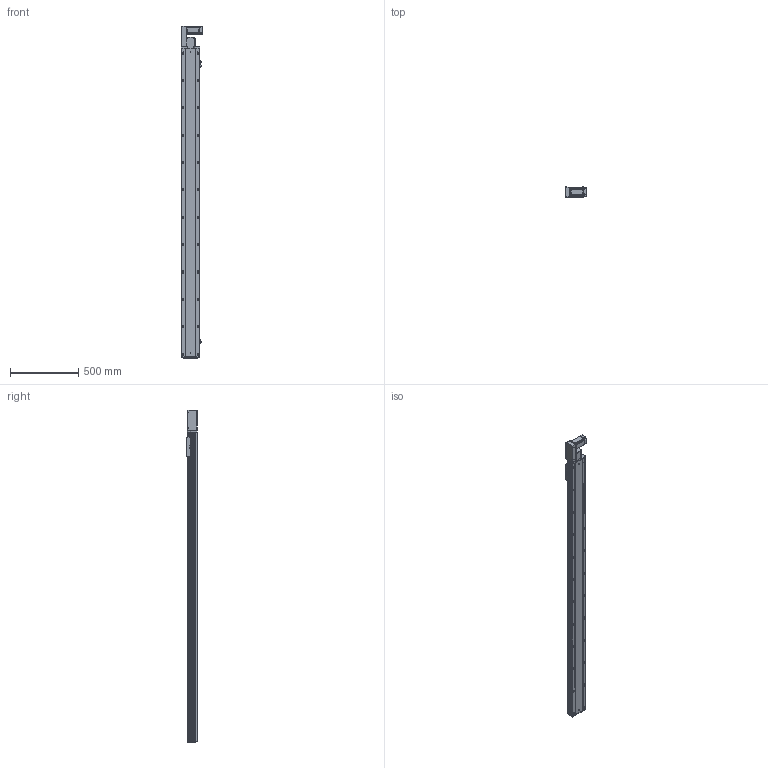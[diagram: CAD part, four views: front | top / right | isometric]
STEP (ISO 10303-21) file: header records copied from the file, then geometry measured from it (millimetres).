
FILE_DESCRIPTION (( 'STEP AP203' ), '1' );
FILE_NAME ('RY140-T-300-LK.SLDASM_2000.step', '2021-03-01T06:37:02', ( '盈信电脑' ), ( '东莞市道滘镇水果街19号' ), 'SwSTEP 2.0', 'SolidWorks 2012', '' );
FILE_SCHEMA (( 'CONFIG_CONTROL_DESIGN' ));
Products named in the file (18): RY140-T翋肮謫裔啣; RY140-T-300-LK.SLDASM_2000; 滅袉蝶18-10; RY140-T萇儂欶; RY120-T蹟翐M4; 侂狟400W侜督萇儂; 15; RY140-T萇儂假蚾啣; RY120-T主同步轮轴承压盖; RY120-T肮祭湍揤踡輸2; RY120外置感应片(140共用）; RY140-T翋肮祭謫盓傅釱; RY120-T肮祭湍揤踡輸1; 覜茼ん672; RY140-T-300-DL倰第菁釱_2000; RY140肮祭謫臏賑輸; RY140-T-300-DL倰第奻裔啣_2000; RY140綴裔啣
Assembly tree (23 placements, depth 3):
  RY140-T-300-LK.SLDASM_2000
    RY140-T-300-DL倰第菁釱_2000
    RY140肮祭謫臏賑輸
    RY140-T-300-DL倰第奻裔啣_2000
    RY140綴裔啣
    覜茼ん672  x3
    RY120外置感应片(140共用）
    RY120-T肮祭湍揤踡輸2
    RY120-T肮祭湍揤踡輸1
    RY140-T翋肮祭謫盓傅釱
    RY140-T萇儂假蚾啣
    侂狟400W侜督萇儂
      15
    RY120-T主同步轮轴承压盖
    RY120-T蹟翐M4  x4
    RY140-T萇儂欶
    滅袉蝶18-10  x2
    RY140-T翋肮謫裔啣
Bounding box: 157 x 78 x 2426.5 mm (x, y, z)
Volume: 6388009.7 mm3; surface area: 2500856.6 mm2
Topology: 22 solids, 22 shells, 2891 faces, 7949 edges, 5056 vertices
Faces by surface type: plane 1385, cylinder 1116, cone 290, bspline 100
Entity records: 91533 total; most frequent: CARTESIAN_POINT 22231, ORIENTED_EDGE 14242, DIRECTION 13617, EDGE_CURVE 7121, VERTEX_POINT 4655, AXIS2_PLACEMENT_3D 4588, LINE 4441, VECTOR 4441
